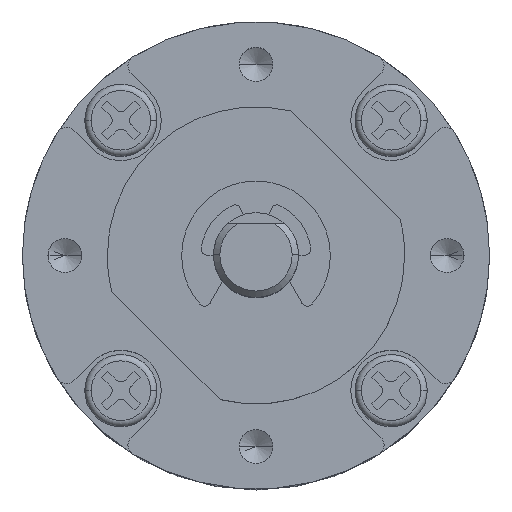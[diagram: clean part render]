
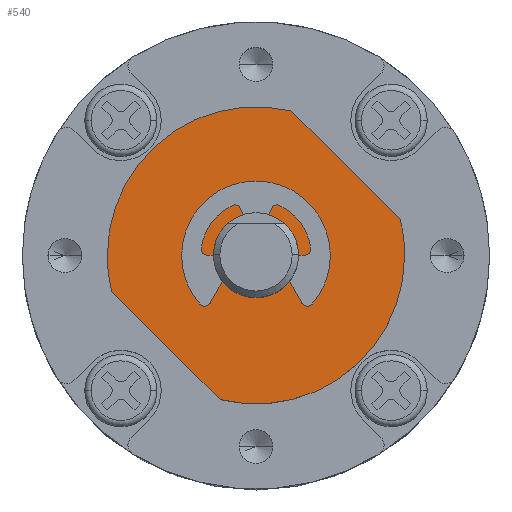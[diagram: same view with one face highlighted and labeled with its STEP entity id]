
A CAD part, top view. The second image highlights one B-rep face of the part: STEP entity #540.
In plain terms, the highlighted planar face has unit normal (0, 0, 1).
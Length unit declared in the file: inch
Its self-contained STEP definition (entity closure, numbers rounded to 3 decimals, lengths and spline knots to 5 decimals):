
#540=ADVANCED_FACE('NONE',(#1379,#1380),#1381,.F.);
#1379=FACE_OUTER_BOUND('',#2529,.T.);
#1380=FACE_BOUND('',#2530,.T.);
#1381=PLANE('',#2531);
#2529=EDGE_LOOP('',(#4122,#4123,#4124,#4125,#4126,#4127));
#2530=EDGE_LOOP('',(#4128,#4129));
#2531=AXIS2_PLACEMENT_3D('',#4130,#4131,#4132);
#4122=ORIENTED_EDGE('',*,*,#7179,.F.);
#4123=ORIENTED_EDGE('',*,*,#7180,.T.);
#4124=ORIENTED_EDGE('',*,*,#7181,.F.);
#4125=ORIENTED_EDGE('',*,*,#7182,.F.);
#4126=ORIENTED_EDGE('',*,*,#7183,.T.);
#4127=ORIENTED_EDGE('',*,*,#7184,.F.);
#4128=ORIENTED_EDGE('',*,*,#6987,.T.);
#4129=ORIENTED_EDGE('',*,*,#7185,.T.);
#4130=CARTESIAN_POINT('',(-0.41528,-0.50639,0.23031));
#4131=DIRECTION('',(0.0,0.0,-1.0));
#4132=DIRECTION('',(0.0,-1.0,0.0));
#6987=EDGE_CURVE('NONE',#8496,#8494,#8497,.T.);
#7179=EDGE_CURVE('NONE',#8818,#8819,#8820,.T.);
#7180=EDGE_CURVE('NONE',#8818,#8821,#8822,.T.);
#7181=EDGE_CURVE('NONE',#8823,#8821,#8824,.T.);
#7182=EDGE_CURVE('NONE',#8825,#8823,#8826,.T.);
#7183=EDGE_CURVE('NONE',#8825,#8827,#8828,.T.);
#7184=EDGE_CURVE('NONE',#8819,#8827,#8829,.T.);
#7185=EDGE_CURVE('NONE',#8494,#8496,#8830,.T.);
#8494=VERTEX_POINT('NONE',#10501);
#8496=VERTEX_POINT('NONE',#10504);
#8497=CIRCLE('',#10505,0.07874);
#8818=VERTEX_POINT('NONE',#10915);
#8819=VERTEX_POINT('',#10916);
#8820=CIRCLE('',#10917,0.27559);
#8821=VERTEX_POINT('NONE',#10918);
#8822=LINE('',#10919,#10920);
#8823=VERTEX_POINT('NONE',#10921);
#8824=CIRCLE('',#10922,0.27559);
#8825=VERTEX_POINT('NONE',#10923);
#8826=CIRCLE('',#10924,0.27559);
#8827=VERTEX_POINT('NONE',#10925);
#8828=LINE('',#10926,#10927);
#8829=CIRCLE('',#10928,0.27559);
#8830=CIRCLE('',#10929,0.07874);
#10501=CARTESIAN_POINT('',(-0.33654,-0.42764,0.23031));
#10504=CARTESIAN_POINT('',(-0.49402,-0.42764,0.23031));
#10505=AXIS2_PLACEMENT_3D('',#12862,#12863,#12864);
#10915=CARTESIAN_POINT('',(-0.14787,-0.36099,0.23031));
#10916=CARTESIAN_POINT('',(-0.13969,-0.42764,0.23031));
#10917=AXIS2_PLACEMENT_3D('',#13155,#13156,#13157);
#10918=CARTESIAN_POINT('',(-0.34862,-0.16024,0.23031));
#10919=CARTESIAN_POINT('',(-0.20887,-0.29998,0.23031));
#10920=VECTOR('',#13158,39.37008);
#10921=CARTESIAN_POINT('',(-0.69087,-0.42764,0.23031));
#10922=AXIS2_PLACEMENT_3D('',#13159,#13160,#13161);
#10923=CARTESIAN_POINT('',(-0.68268,-0.4943,0.23031));
#10924=AXIS2_PLACEMENT_3D('',#13162,#13163,#13164);
#10925=CARTESIAN_POINT('',(-0.48194,-0.69505,0.23031));
#10926=CARTESIAN_POINT('',(-0.54294,-0.63405,0.23031));
#10927=VECTOR('',#13165,39.37008);
#10928=AXIS2_PLACEMENT_3D('',#13166,#13167,#13168);
#10929=AXIS2_PLACEMENT_3D('',#13169,#13170,#13171);
#12862=CARTESIAN_POINT('',(-0.41528,-0.42764,0.23031));
#12863=DIRECTION('',(0.0,0.0,-1.0));
#12864=DIRECTION('',(-1.0,0.0,0.0));
#13155=CARTESIAN_POINT('',(-0.41528,-0.42764,0.23031));
#13156=DIRECTION('',(0.0,0.0,-1.0));
#13157=DIRECTION('',(-1.0,0.0,0.0));
#13158=DIRECTION('',(-0.707,0.707,0.0));
#13159=CARTESIAN_POINT('',(-0.41528,-0.42764,0.23031));
#13160=DIRECTION('',(0.0,0.0,-1.0));
#13161=DIRECTION('',(-1.0,0.0,0.0));
#13162=CARTESIAN_POINT('',(-0.41528,-0.42764,0.23031));
#13163=DIRECTION('',(0.0,0.0,-1.0));
#13164=DIRECTION('',(-1.0,0.0,0.0));
#13165=DIRECTION('',(0.707,-0.707,0.0));
#13166=CARTESIAN_POINT('',(-0.41528,-0.42764,0.23031));
#13167=DIRECTION('',(0.0,0.0,-1.0));
#13168=DIRECTION('',(-1.0,0.0,0.0));
#13169=CARTESIAN_POINT('',(-0.41528,-0.42764,0.23031));
#13170=DIRECTION('',(0.0,0.0,-1.0));
#13171=DIRECTION('',(-1.0,0.0,0.0));
